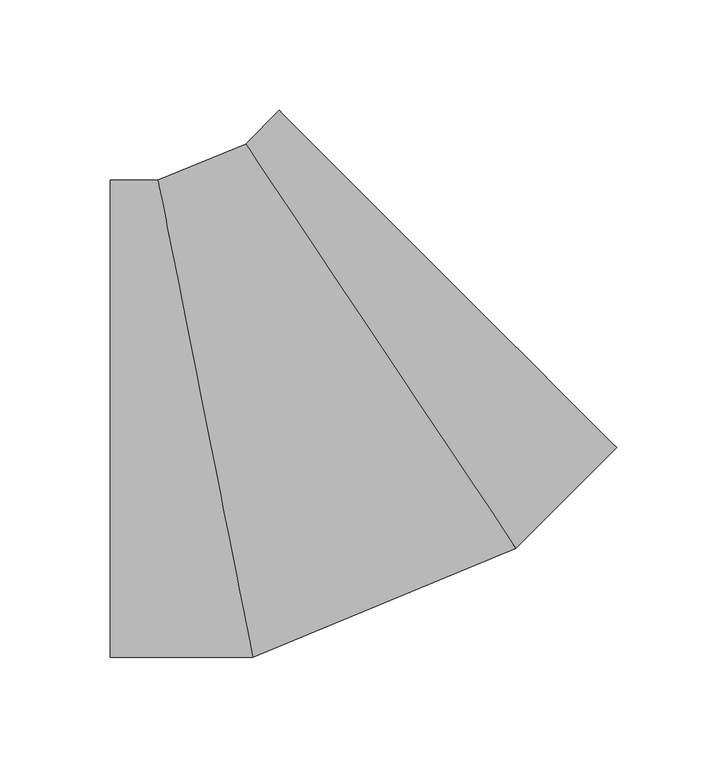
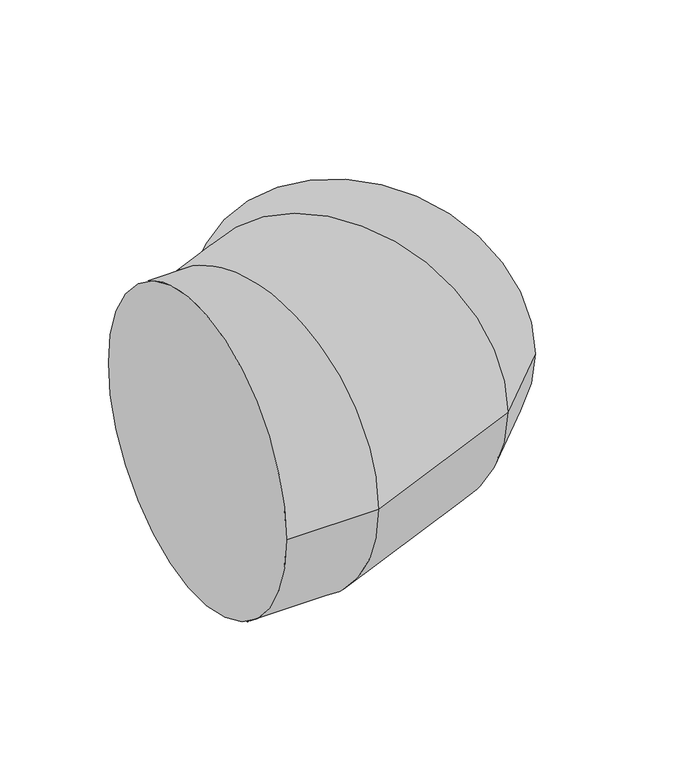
"""IFC4 building model written with IfcOpenShell, lengths in millimetres: duct fitting geometry, 17_Отвод_Заключение : 10_Отвод_3D объект."""

import ifcopenshell
import ifcopenshell.guid

model = None  # the IFC model being written
_history = None  # IfcOwnerHistory: only IFC2X3 demands one
_inside = {}  # id of a spatial element -> (the spatial element, [elements in it])
_under = {}  # id of a project, library or spatial element -> (it, [spatial elements below it])
_declared = {}  # id of a project -> (the project, [libraries it declares])
_typed = {}  # id of a type object -> (the type object, [elements of that type])
_made_of = {}  # id of a material, layer set ... -> (it, [elements and type objects made of it])


def new_model(schema):
    """Start an empty IFC model of exactly this schema.

    Asked for "IFC4X3", IfcOpenShell would pick the latest addendum, in which some entities
    have other attributes; the version numbers below select the first issue.
    IFC2X3 requires an IfcOwnerHistory on every rooted entity: one is made here for all.
    """
    global model, _history
    if schema == "IFC4X3":
        model = ifcopenshell.file(schema_version=(4, 3, 0, 0))
    else:
        model = ifcopenshell.file(schema=schema)
    _inside.clear()
    _under.clear()
    _declared.clear()
    _typed.clear()
    _made_of.clear()
    _history = None
    if model.schema == "IFC2X3":
        org = make("IfcOrganization", Name="unknown")
        user = make(
            "IfcPersonAndOrganization",
            ThePerson=make("IfcPerson", FamilyName="unknown"),
            TheOrganization=org,
        )
        app = make(
            "IfcApplication",
            ApplicationDeveloper=org,
            Version="unknown",
            ApplicationFullName="unknown",
            ApplicationIdentifier="unknown",
        )
        _history = make(
            "IfcOwnerHistory",
            OwningUser=user,
            OwningApplication=app,
            ChangeAction="ADDED",
            CreationDate=0,
        )
    return model


def make(cls, **values):
    """One entity of the class cls with the attributes given. An attribute that is None is left unset."""
    return model.create_entity(
        cls, **{name: value for name, value in values.items() if value is not None}
    )


def rooted(cls, **values):
    """An entity with a GlobalId (a new one), such as an element, a storey or a relation."""
    return make(cls, GlobalId=ifcopenshell.guid.new(), OwnerHistory=_history, **values)


def si_unit(unit_type, name, prefix=None):
    """IfcSIUnit, for example si_unit("LENGTHUNIT", "METRE", prefix="MILLI")."""
    return make("IfcSIUnit", UnitType=unit_type, Prefix=prefix, Name=name)


def assignment(units):
    """IfcUnitAssignment: the units of a project."""
    return None if units is None else make("IfcUnitAssignment", Units=units)


def point(xyz):
    """IfcCartesianPoint."""
    return None if xyz is None else make("IfcCartesianPoint", Coordinates=xyz)


def direction(xyz):
    """IfcDirection."""
    return None if xyz is None else make("IfcDirection", DirectionRatios=xyz)


def frame(location, z_axis=None, x_axis=None):
    """IfcAxis2Placement3D, a coordinate frame: its origin and axes. An axis left out is left unset."""
    return make(
        "IfcAxis2Placement3D",
        Location=point(location),
        Axis=direction(z_axis),
        RefDirection=direction(x_axis),
    )


def origin():
    """The frame at (0, 0, 0) with its axes left unset."""
    return frame((0.0, 0.0, 0.0))


def place(relative_to, where):
    """IfcLocalPlacement: puts the frame where relative to a parent placement (None: the world)."""
    return make(
        "IfcLocalPlacement", PlacementRelTo=relative_to, RelativePlacement=where
    )


def context(
    kind, dimensions, precision=None, world=None, true_north=None, identifier=None
):
    """IfcGeometricRepresentationContext, for example the 3D "Model" context."""
    return make(
        "IfcGeometricRepresentationContext",
        ContextIdentifier=identifier,
        ContextType=kind,
        CoordinateSpaceDimension=dimensions,
        Precision=precision,
        WorldCoordinateSystem=world,
        TrueNorth=true_north,
    )


def project(units=None, contexts=None):
    """IfcProject with its units and contexts."""
    return rooted(
        "IfcProject",
        Name="project",
        RepresentationContexts=contexts,
        UnitsInContext=assignment(units),
    )


def spatial(cls, under=None, at=None, **own):
    """A site, building, storey or space (cls), placed at a placement, below another one or the project."""
    s = rooted(cls, ObjectPlacement=at, **own)
    if under is not None:
        _under.setdefault(under.id(), (under, []))[1].append(s)
    return s


def circle_curve(where, radius):
    """IfcCircle in the frame where."""
    return make("IfcCircle", Position=where, Radius=radius)


def ellipse_curve(where, semi_axis1, semi_axis2):
    """IfcEllipse in the frame where."""
    return make(
        "IfcEllipse", Position=where, SemiAxis1=semi_axis1, SemiAxis2=semi_axis2
    )


def shape(context_of_items, identifier, shape_type, items):
    """IfcShapeRepresentation: the items that make up one representation, for example the "Body"."""
    return make(
        "IfcShapeRepresentation",
        ContextOfItems=context_of_items,
        RepresentationIdentifier=identifier,
        RepresentationType=shape_type,
        Items=items,
    )


def source(mapping_origin, context_of_items, identifier, shape_type, items):
    """IfcRepresentationMap: a shape defined once, which mapped items show again and again."""
    return make(
        "IfcRepresentationMap",
        MappingOrigin=mapping_origin,
        MappedRepresentation=shape(context_of_items, identifier, shape_type, items),
    )


def transform(
    local_origin,
    x_axis=None,
    y_axis=None,
    z_axis=None,
    scale=None,
    scale2=None,
    scale3=None,
    uniform=True,
):
    """IfcCartesianTransformationOperator3D, or its non-uniform kind. x_axis, y_axis, z_axis: its Axis1, 2, 3."""
    if uniform:
        return make(
            "IfcCartesianTransformationOperator3D",
            Axis1=direction(x_axis),
            Axis2=direction(y_axis),
            LocalOrigin=point(local_origin),
            Scale=scale,
            Axis3=direction(z_axis),
        )
    return make(
        "IfcCartesianTransformationOperator3DnonUniform",
        Axis1=direction(x_axis),
        Axis2=direction(y_axis),
        LocalOrigin=point(local_origin),
        Scale=scale,
        Axis3=direction(z_axis),
        Scale2=scale2,
        Scale3=scale3,
    )


def mapped(mapping_source, mapping_target):
    """IfcMappedItem: shows the shape of a source again, moved by a transform."""
    return make(
        "IfcMappedItem", MappingSource=mapping_source, MappingTarget=mapping_target
    )


def made_of(thing, what):
    """Note that an element or type object is made of a material, layer set ...; save() writes the relation."""
    if what is not None:
        _made_of.setdefault(what.id(), (what, []))[1].append(thing)
    return thing


def element(
    cls,
    number,
    at=None,
    inside=None,
    cuts=None,
    type_object=None,
    material=None,
    context=None,
    identifier="Body",
    shape_type=None,
    held_by="IfcProductDefinitionShape",
    body=None,
    shapes=None,
    **own,
):
    """One element of the class cls, such as IfcWall. Its Tag is "e" and its number.

    at: its placement. inside: the storey or other place that contains it. cuts: it is an
    opening in that element (IfcRelVoidsElement). A single representation is given by context,
    identifier, shape_type and body (its items); several are given by shapes. held_by: the class
    of the entity that holds the representations. save() writes the other relations.
    """
    e = rooted(cls, Tag="e%d" % number, ObjectPlacement=at, **own)
    if body is not None:
        shapes = [shape(context, identifier, shape_type, body)]
    if shapes is not None:
        e.Representation = make(held_by, Representations=shapes)
    if inside is not None:
        _inside.setdefault(inside.id(), (inside, []))[1].append(e)
    if cuts is not None:
        rooted(
            "IfcRelVoidsElement", RelatingBuildingElement=cuts, RelatedOpeningElement=e
        )
    if type_object is not None:
        _typed.setdefault(type_object.id(), (type_object, []))[1].append(e)
    return made_of(e, material)


def aggregate(whole, parts):
    """IfcRelAggregates: a whole, such as a stair, and the parts it consists of."""
    return rooted("IfcRelAggregates", RelatingObject=whole, RelatedObjects=parts)


def save(model, path):
    """Write the relations noted so far, then the file.

    IfcRelAggregates (storeys below a building ...), IfcRelContainedInSpatialStructure (elements
    in a storey), IfcRelDefinesByType, IfcRelAssociatesMaterial and IfcRelDeclares: one each for
    every whole, place, type object, material and project.
    """
    for whole, parts in _under.values():
        aggregate(whole, parts)
    for where, things in _inside.values():
        rooted(
            "IfcRelContainedInSpatialStructure",
            RelatedElements=things,
            RelatingStructure=where,
        )
    for kind, things in _typed.values():
        rooted("IfcRelDefinesByType", RelatedObjects=things, RelatingType=kind)
    for what, things in _made_of.values():
        rooted("IfcRelAssociatesMaterial", RelatedObjects=things, RelatingMaterial=what)
    for by, libraries in _declared.values():
        rooted("IfcRelDeclares", RelatingContext=by, RelatedDefinitions=libraries)
    model.write(path)


def plane_surface(at):
    """IfcPlane: the flat surface through the origin of the frame at, square to its z axis."""
    return make("IfcPlane", Position=at)


def cylinder_surface(at, radius):
    """IfcCylindricalSurface: all points at the distance radius from the z axis of the frame at."""
    return make("IfcCylindricalSurface", Position=at, Radius=radius)


def advanced_brep(points, edges, surfaces, faces):
    """IfcAdvancedBrep: a solid bounded by faces that lie on surfaces and meet in shared edges.

    An edge is (start, end): straight between two places in points (the first is 0);
    or (start, end, curve); or (start, end, curve, False) where it runs against its curve.
    A face is (place in surfaces, loops), or (place, loops, False) where it looks against
    its surface's normal. A loop lists edges by number (the first is 1), with a minus sign
    where the edge is run from its end to its start. The first loop is the outer one.
    """
    corners = [point(p) for p in points]
    vertices = [make("IfcVertexPoint", VertexGeometry=c) for c in corners]
    made = []
    for start, end, *more in edges:
        made.append(
            make(
                "IfcEdgeCurve",
                EdgeStart=vertices[start],
                EdgeEnd=vertices[end],
                EdgeGeometry=more[0] if more else make("IfcPolyline", Points=[corners[start], corners[end]]),
                SameSense=more[1] if len(more) > 1 else True,
            )
        )
    hull = []
    for where, loops, *sense in faces:
        bounds = []
        for j, loop in enumerate(loops):
            ring = [make("IfcOrientedEdge", EdgeElement=made[abs(k) - 1], Orientation=k > 0) for k in loop]
            bounds.append(
                make(
                    "IfcFaceOuterBound" if j == 0 else "IfcFaceBound",
                    Bound=make("IfcEdgeLoop", EdgeList=ring),
                    Orientation=True,
                )
            )
        hull.append(make("IfcAdvancedFace", Bounds=bounds, FaceSurface=surfaces[where], SameSense=sense[0] if sense else True))
    return make("IfcAdvancedBrep", Outer=make("IfcClosedShell", CfsFaces=hull))


def duct_fitting_0e20c7a0(model_context):
    return source(origin(), model_context, "Body", "AdvancedBrep", [
        advanced_brep(
        [(-89.4701295, -108.0, 0.0), (-89.4701295, 108.0, 0.0), (-25.0225224, -108.0, 0.0), (-67.9875938, 108.0, 0.0), (94.0611277, -58.6739371, 0.0), (-28.2930438, 124.442021, 0.0), (139.6324676, -13.1025971, 0.0), (-13.1025971, 139.6324676, 0.0)],
        [
            (0, 1, circle_curve(frame((-89.4701295, 0.0, 0.0), z_axis=(-1.0, 0.0, 0.0), x_axis=(0.0, 1.0, 0.0)), 108.0)),
            (1, 0, circle_curve(frame((-89.4701295, 0.0, 0.0), z_axis=(-1.0, 0.0, 0.0), x_axis=(0.0, 1.0, 0.0)), 108.0)),
            (0, 2),
            (2, 3, ellipse_curve(frame((-46.5050581, 0.0, 0.0), z_axis=(-0.9807852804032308, -0.19509032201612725, 0.0), x_axis=(-0.19509032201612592, 0.980785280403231, 0.0)), 110.1158451, 108.0)),
            (3, 1),
            (3, 2, ellipse_curve(frame((-46.5050581, 0.0, 0.0), z_axis=(-0.9807852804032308, -0.19509032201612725, 0.0), x_axis=(-0.19509032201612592, 0.980785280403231, 0.0)), 110.1158451, 108.0)),
            (2, 4),
            (4, 5, ellipse_curve(frame((32.884042, 32.884042, 0.0), z_axis=(-0.8314696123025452, -0.5555702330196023, 0.0), x_axis=(-0.5555702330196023, 0.8314696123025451, 0.0)), 110.1158451, 108.0)),
            (5, 3),
            (5, 4, ellipse_curve(frame((32.884042, 32.884042, 0.0), z_axis=(-0.8314696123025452, -0.5555702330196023, 0.0), x_axis=(-0.5555702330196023, 0.8314696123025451, 0.0)), 110.1158451, 108.0)),
            (4, 6),
            (6, 7, circle_curve(frame((63.2649353, 63.2649353, 0.0), z_axis=(-0.7071067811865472, -0.7071067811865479, 0.0), x_axis=(-0.7071067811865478, 0.7071067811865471, 0.0)), 108.0)),
            (7, 5),
            (7, 6, circle_curve(frame((63.2649353, 63.2649353, 0.0), z_axis=(-0.7071067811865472, -0.7071067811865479, 0.0), x_axis=(-0.7071067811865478, 0.7071067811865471, 0.0)), 108.0)),
        ],
        [
            plane_surface(frame((-89.4701295, 0.0, 0.0), z_axis=(-1.0, 0.0, 0.0), x_axis=(0.0, 0.0, 1.0))),
            cylinder_surface(frame((-89.4701295, 0.0, 0.0), z_axis=(-1.0, 0.0, 0.0), x_axis=(0.0, 1.0, 0.0)), 108.0),
            cylinder_surface(frame((-46.5050581, 0.0, 0.0), z_axis=(-0.923879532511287, -0.38268343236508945, 0.0), x_axis=(-0.38268343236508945, 0.923879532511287, 0.0)), 108.0),
            cylinder_surface(frame((32.884042, 32.884042, 0.0), z_axis=(-0.7071067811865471, -0.7071067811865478, 0.0), x_axis=(-0.7071067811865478, 0.7071067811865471, 0.0)), 108.0),
            plane_surface(frame((63.2649353, 63.2649353, 0.0), z_axis=(0.7071067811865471, 0.7071067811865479, 0.0), x_axis=(0.0, 0.0, 1.0))),
        ],
        [
            (0, [[1, 2]]),
            (1, [[-1, 3, 4, 5]]),
            (1, [[-2, -5, 6, -3]]),
            (2, [[-4, 7, 8, 9]]),
            (2, [[-6, -9, 10, -7]]),
            (3, [[-8, 11, 12, 13]]),
            (3, [[-10, -13, 14, -11]]),
            (4, [[-14, -12]]),
        ],
    ),
    ])


if __name__ == "__main__":
    model = new_model("IFC4")
    model_context = context("Model", 3, world=origin())
    ifc_project = project(units=[si_unit("LENGTHUNIT", "METRE", prefix="MILLI")], contexts=[model_context])
    site = spatial("IfcSite", under=ifc_project)
    building = spatial("IfcBuilding", under=site)
    placement = place(None, origin())
    duct_fitting_shape = duct_fitting_0e20c7a0(model_context)
    element("IfcDuctFitting", 1, ObjectType="17_Отвод_Заключение : 10_Отвод_3D объект", at=placement, inside=building, context=model_context, shape_type="MappedRepresentation", body=[
        mapped(duct_fitting_shape, transform((0.0, 0.0, 0.0), x_axis=(1.0, 0.0, 0.0), y_axis=(0.0, 1.0, 0.0), z_axis=(0.0, 0.0, 1.0))),
    ])
    save(model, "model.ifc")
